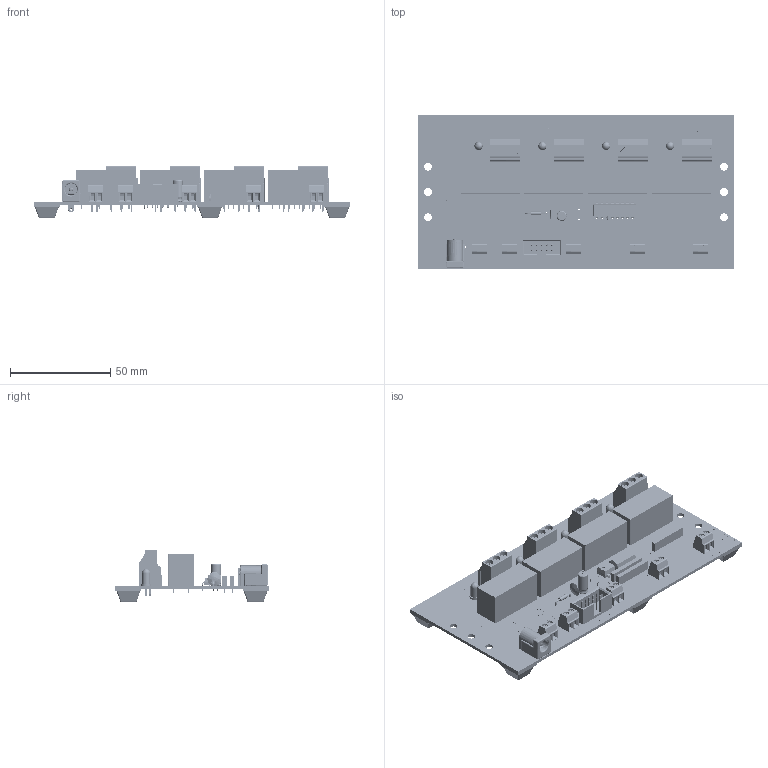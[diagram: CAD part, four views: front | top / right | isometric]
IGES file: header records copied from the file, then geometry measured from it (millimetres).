
Start section: SolidWorks IGES file using analytic representation for surfaces
Global section: file name: W:\end-user\products\rly\rly20x\rly204\3dmodel\rev_b\render\rly204-xxv-ft_rev_b.igs; native system: SolidWorks 2018; preprocessor: SolidWorks 2018; author: leviroy; date: 220725.160840; units: inch
Bounding box: 157.48 x 76.2 x 25.94 mm (x, y, z)
Surface area: 56612.1 mm2 (no closed solid volume)
Topology: 0 solids, 0 shells, 6484 faces, 54916 edges, 54735 vertices
Faces by surface type: bspline 5182, revolution 1302
